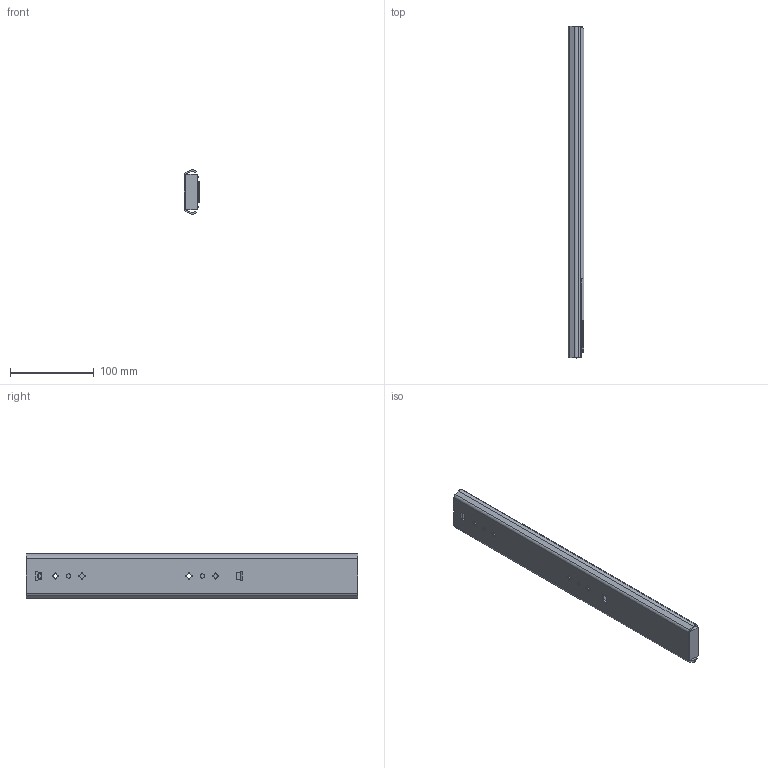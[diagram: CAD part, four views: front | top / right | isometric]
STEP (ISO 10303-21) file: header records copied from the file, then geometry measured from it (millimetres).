
FILE_DESCRIPTION( ( 'Unknown' ), '1' );
FILE_NAME( 'W:/研發專區/RD19克怡/開發案/MSE4588 - 78036(76008+緩歸)/3D/400/78036-400.stp', 'Unknown', ( 'Unknown' ), ( 'Unknown' ), 'PSStep 14.0', 'Unknown', ' ' );
FILE_SCHEMA( ( 'AUTOMOTIVE_DESIGN { 1 0 10303 214 1 1 1 1 }' ) );
Length unit declared in the file: millimetre
Products named in the file (8): Assem1; \X2\5916684\X0\; \X2\4E2D684\X0\; \X2\5167684\X0\; P2-035; P5-079; H-417; P10-833
Assembly tree (7 placements, depth 2):
  Assem1
    \X2\5916684\X0\
    \X2\4E2D684\X0\
    \X2\5167684\X0\
    P2-035
    P5-079
    H-417
    P10-833
Bounding box: 19 x 397.2 x 53.59 mm (x, y, z)
Volume: 179903.2 mm3; surface area: 142831.9 mm2
Topology: 7 solids, 7 shells, 441 faces, 1272 edges, 840 vertices
Faces by surface type: cylinder 213, plane 173, cone 40, torus 11, sphere 4
Full cylindrical faces by diameter (mm): 2.5 x1, 3 x1, 4 x2, 5 x6
Entity records: 19423 total; most frequent: CARTESIAN_POINT 3838, DIRECTION 2591, ORIENTED_EDGE 2508, EDGE_CURVE 1254, AXIS2_PLACEMENT_3D 988, VERTEX_POINT 833, LINE 615, VECTOR 615
